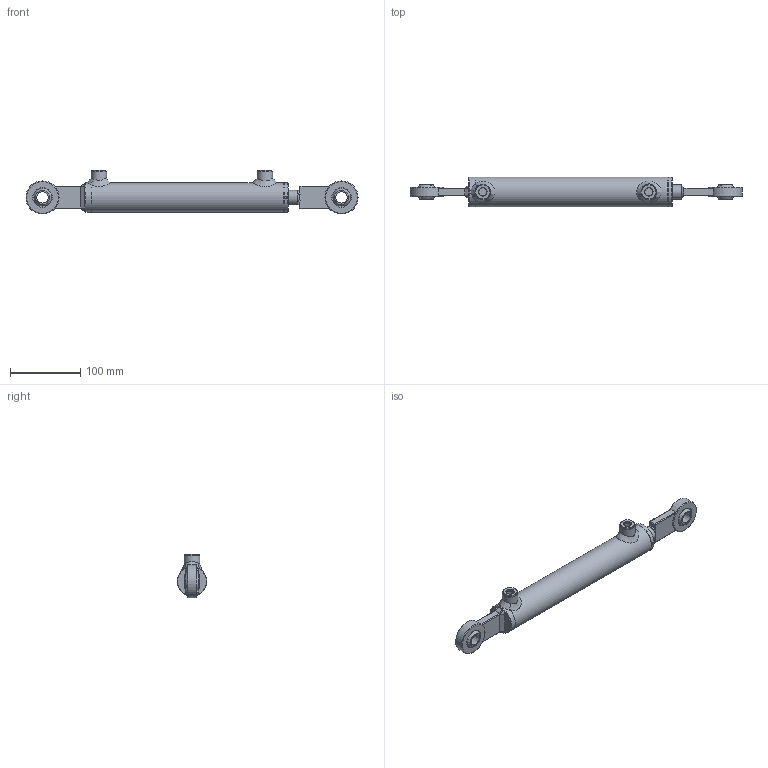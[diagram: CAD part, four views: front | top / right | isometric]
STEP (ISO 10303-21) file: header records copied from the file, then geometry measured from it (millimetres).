
FILE_DESCRIPTION( ( 'Unknown' ), '1' );
FILE_NAME( 'E:/LIBRERIA_3d/CILINDRI/HM1/HM1032200200.stp', 'Unknown', ( 'Unknown' ), ( 'Unknown' ), 'PSStep 17.0.49', 'Unknown', ' ' );
FILE_SCHEMA( ( 'AUTOMOTIVE_DESIGN { 1 0 10303 214 1 1 1 1 }' ) );
Length unit declared in the file: millimetre
Products named in the file (32): CG04203220; CT00032015; STFR032050200-oa6; Saldatura d'angolo 1-oa4; MAT_PRIMA_TUBO_FT04203200-oa5; CBS0400000; CSR0010495; CSR10495_CORPO; CSR10495_ROTULA; HM0032200200; Saldatura con preparazione 1-oa2; Saldatura d'angolo 1-oa3; CF00032042; CDA0001415; APG0400000; SBL0200320200; Assem1; Saldatura d'angolo 1-oa0; Saldatura d'angolo 2-oa1
Assembly tree (20 placements, depth 4):
  Saldatura d'angolo 1-oa4
  Saldatura d'angolo 1-oa4
  Saldatura d'angolo 1-oa3
  Saldatura d'angolo 1-oa3
  Assem1
    CSR0010495  x2
      CSR10495_CORPO
      CSR10495_ROTULA
    HM0032200200
      Saldatura con preparazione 1-oa2
      Saldatura con preparazione 1-oa2
      CF00032042
      CBS0400000
      CDA0001415
      APG0400000  x2
      SBL0200320200
      CG04203220
        CG04203220
      CT00032015
        CT00032015
      STFR032050200-oa6
        MAT_PRIMA_TUBO_FT04203200-oa5
        CBS0400000
Bounding box: 472 x 42 x 62.5 mm (x, y, z)
Volume: 377243.4 mm3; surface area: 151589.9 mm2
Topology: 30 solids, 30 shells, 356 faces, 757 edges, 462 vertices
Faces by surface type: plane 118, cylinder 90, bspline 58, torus 40, cone 38, sphere 12
Full cylindrical faces by diameter (mm): 3 x2, 4 x2, 4.25 x1, 5 x2, 11.445 x2, 12 x2, 13.1 x2, 14 x2, 15 x3, 16 x2, 19.5 x1, 20 x10, 22 x4, 23 x1, 24 x1, 28 x3, 28.3 x1, 28.6 x1, 31.4 x2, 31.9 x1, 32 x1, 32.3 x1, 32.5 x1, 32.6 x1, 33 x1, 34 x3, 34.376 x1, 36 x1, 42 x5, 47 x2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
Entity records: 14140 total; most frequent: CARTESIAN_POINT 5782, DIRECTION 1088, ORIENTED_EDGE 964, AXIS2_PLACEMENT_3D 491, EDGE_CURVE 482, EDGE_LOOP 480, FACE_OUTER_BOUND 405, VERTEX_POINT 365
